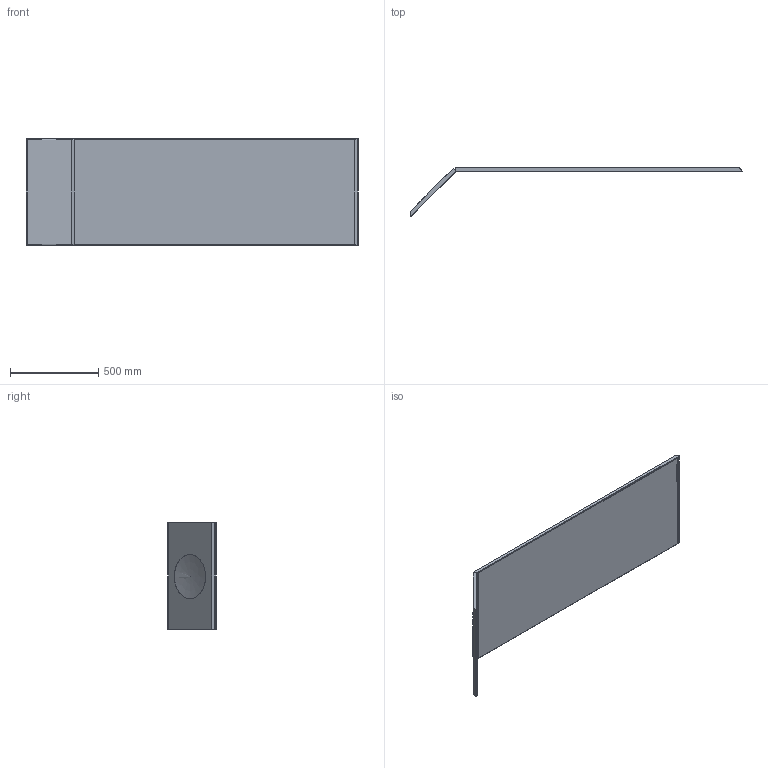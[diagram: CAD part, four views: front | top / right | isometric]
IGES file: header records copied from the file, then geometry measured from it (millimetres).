
Start section: Data from Parasolid IGES Translator 19.0.9, Copyright(c) 2006 Siemens PL M Software. All Rights Reserved.
Global section: file name: noorth-mirror-H 60 D 2,5 W 198_4246.igs; native system: By Siemens PLM Incorporated; preprocessor: XPlus GENERIC/IGES 19.0.9; author: Noname; organization: Noname; date: 20210721.093241; units: metre
Bounding box: 1877.36 x 274.85 x 600 mm (x, y, z)
Volume: 26688240.4 mm3; surface area: 5014653.7 mm2
Topology: 7 solids, 7 shells, 101 faces, 215 edges, 127 vertices
Faces by surface type: plane 83, cylinder 15, bspline 3
Full cylindrical faces by diameter (mm): 250 x1
